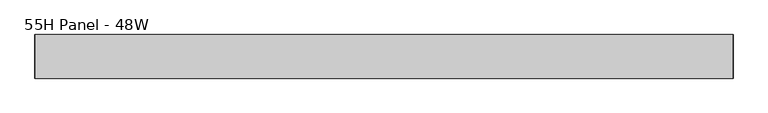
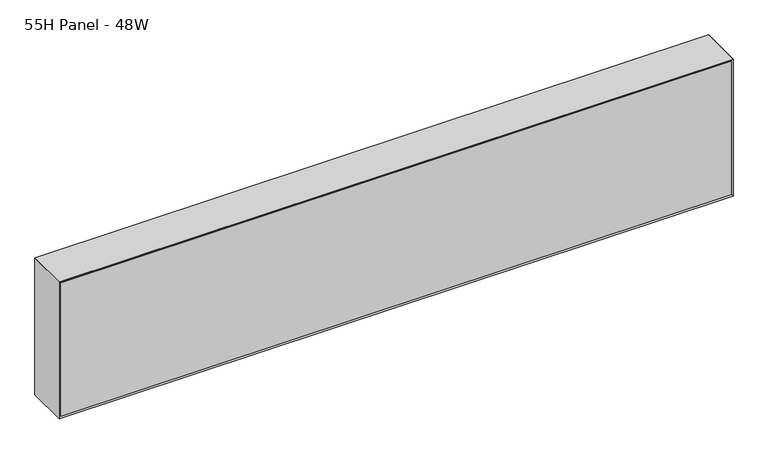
"""IFC4 building model written with IfcOpenShell, lengths in millimetres: furniture geometry, Steelcase - Montage - Frame - 10H - Enhanced Standard - Single Stack-On : 55H Panel - 48W."""

from ifc_helpers import new_model, si_unit, frame, origin, place, context, project, spatial, polyline, outline, extrude, faceted_brep, source, transform, mapped, element, save


def furniture_55h_panel_48w_b752e680(model_context):
    return source(origin(), model_context, "Body", "SolidModel", [
        faceted_brep([(1209.6750027, 31.7500194, 1651.0127415), (9.5250028, 31.7500194, 1651.0127415), (9.5250028, 31.7500194, 1408.1125), (1209.6750027, 31.7500194, 1408.1125), (1216.025, 38.1000194, 1657.3627415), (1216.025, 38.1000194, 1401.7625), (3.175, 38.1000194, 1401.7625), (3.175, 38.1000194, 1657.3627415)], [[[0, 1, 2, 3]], [[4, 5, 6, 7]], [[4, 0, 3, 5]], [[5, 3, 2, 6]], [[6, 2, 1, 7]], [[7, 1, 0, 4]]]),
        faceted_brep([(1209.6750027, -31.7500194, 1651.0127415), (1209.6750027, -31.7500194, 1408.1125), (9.5250028, -31.7500194, 1408.1125), (9.5250028, -31.7500194, 1651.0127415), (1216.025, -38.1000194, 1657.3627415), (3.175, -38.1000194, 1657.3627415), (3.175, -38.1000194, 1401.7625), (1216.025, -38.1000194, 1401.7625)], [[[0, 1, 2, 3]], [[4, 5, 6, 7]], [[4, 7, 1, 0]], [[7, 6, 2, 1]], [[6, 5, 3, 2]], [[5, 4, 0, 3]]]),
        faceted_brep([(1219.2, -38.1000015, 1398.5875), (1219.2, 38.1000015, 1398.5875), (1219.2, 38.1000015, 1660.5377415), (1219.2, -38.1000106, 1660.5377414), (0.0, 38.1000015, 1398.5875), (0.0, -38.1000015, 1398.5875), (0.0, -38.1000015, 1660.5377415), (0.0, 38.1000015, 1660.5377415), (6.3500484, 31.749953, 1404.9375484), (1212.8499879, 31.749953, 1404.9375484), (6.35, -31.749953, 1404.9375484), (1212.8499879, -31.749953, 1404.9375484), (6.3500169, 31.7499846, 1654.1877245), (6.3500012, -31.7500003, 1654.187693), (1212.8499879, -31.7499973, 1654.187693), (1212.8499879, 31.7499885, 1654.1877293)], [[[0, 1, 2, 3]], [[4, 5, 6, 7]], [[1, 0, 5, 4]], [[1, 4, 8, 9]], [[9, 8, 10, 11]], [[5, 0, 11, 10]], [[4, 7, 12, 8]], [[6, 5, 10, 13]], [[10, 8, 12, 13]], [[9, 11, 14, 15]], [[0, 3, 14, 11]], [[2, 1, 9, 15]], [[3, 2, 15, 14]], [[7, 6, 13, 12]]]),
        faceted_brep([(1219.2, -38.1000015, 1660.5377415), (0.0, -38.1000015, 1660.5377415), (6.3500484, -31.749953, 1654.187693), (1212.8499516, -31.749953, 1654.187693), (6.3500484, 31.749953, 1654.187693), (1212.8499516, 31.749953, 1654.187693), (0.0, 38.1000015, 1660.5377415), (1219.2, 38.1000015, 1660.5377415)], [[[0, 1, 2, 3]], [[3, 2, 4, 5]], [[6, 7, 5, 4]], [[1, 0, 7, 6]], [[2, 1, 6, 4]], [[0, 3, 5, 7]]]),
        extrude(outline(polyline([(1212.8499879, 31.7500016), (1212.8499879, -31.7499985), (6.35, -31.7499985), (6.35, 31.7500016), (1212.8499879, 31.7500016)])), frame((0.0, 0.0, 1404.9327145), z_axis=(0.0, 0.0, 1.0), x_axis=(1.0, 0.0, 0.0)), (0.0, 0.0, 1.0), 249.2549785),
    ])


if __name__ == "__main__":
    model = new_model("IFC4")
    model_context = context("Model", 3, world=origin())
    ifc_project = project(units=[si_unit("LENGTHUNIT", "METRE", prefix="MILLI")], contexts=[model_context])
    site = spatial("IfcSite", under=ifc_project)
    building = spatial("IfcBuilding", under=site)
    placement = place(None, origin())
    furniture_55h_panel_48w_shape = furniture_55h_panel_48w_b752e680(model_context)
    element("IfcFurniture", 1, ObjectType="Steelcase - Montage - Frame - 10H - Enhanced Standard - Single Stack-On : 55H Panel - 48W", at=placement, inside=building, context=model_context, shape_type="MappedRepresentation", body=[
        mapped(furniture_55h_panel_48w_shape, transform((0.0, 0.0, 0.0), x_axis=(1.0, 0.0, 0.0), y_axis=(0.0, 1.0, 0.0), z_axis=(0.0, 0.0, 1.0))),
    ])
    save(model, "model.ifc")
